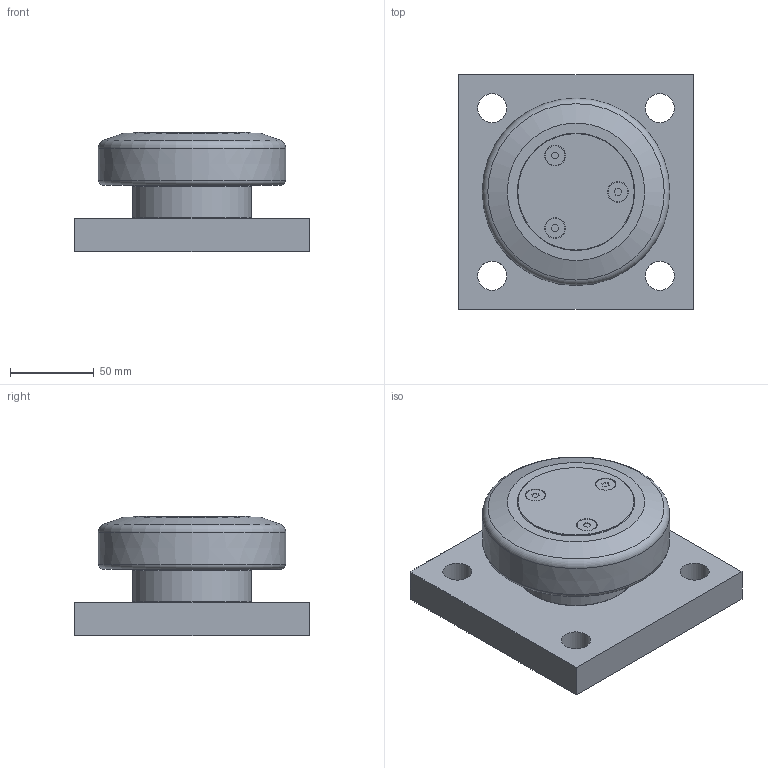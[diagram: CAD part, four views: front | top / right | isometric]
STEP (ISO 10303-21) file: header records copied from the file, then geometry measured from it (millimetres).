
FILE_DESCRIPTION(/* description */ ('-','CAx-IF Rec.Pracs.---Representation and Presentation of Product Manufacturing Information (PMI)---4.0---2014-10-13'),/* implementation_level */ '2;1');
FILE_NAME(/* name */ 'c:\temp\5211cd47-7def-41d8-8326-e34f4b7faabf\14e76814-fdd7-4618-91d9-f7c0ffae5b45.stp',/* time_stamp */ '2020-04-01T16:20:02+02:00',/* author */ ('-'),/* organization */ ('NTI CADcenter A/S'),/* preprocessor_version */ 'ST-DEVELOPER v18',/* originating_system */ 'Autodesk Inventor 2020',/* authorisation */ '-');
FILE_SCHEMA (('AP242_MANAGED_MODEL_BASED_3D_ENGINEERING_MIM_LF { 1 0 10303 442 1 1 4 }'));
Length unit declared in the file: millimetre
Products named in the file (1): PT 110.0460 BQ1000_Kontur
Bounding box: 140 x 140 x 71.5 mm (x, y, z)
Volume: 743813.6 mm3; surface area: 78039.3 mm2
Topology: 1 solids, 1 shells, 57 faces, 137 edges, 95 vertices
Faces by surface type: plane 37, cylinder 13, cone 4, torus 2, bspline 1
Full cylindrical faces by diameter (mm): 11.7 x3, 12.4 x3, 17.294 x4, 70 x1, 70.5 x1, 71 x1
Entity records: 1772 total; most frequent: CARTESIAN_POINT 316, DIRECTION 305, ORIENTED_EDGE 274, EDGE_CURVE 137, AXIS2_PLACEMENT_3D 111, VERTEX_POINT 95, LINE 83, VECTOR 83
